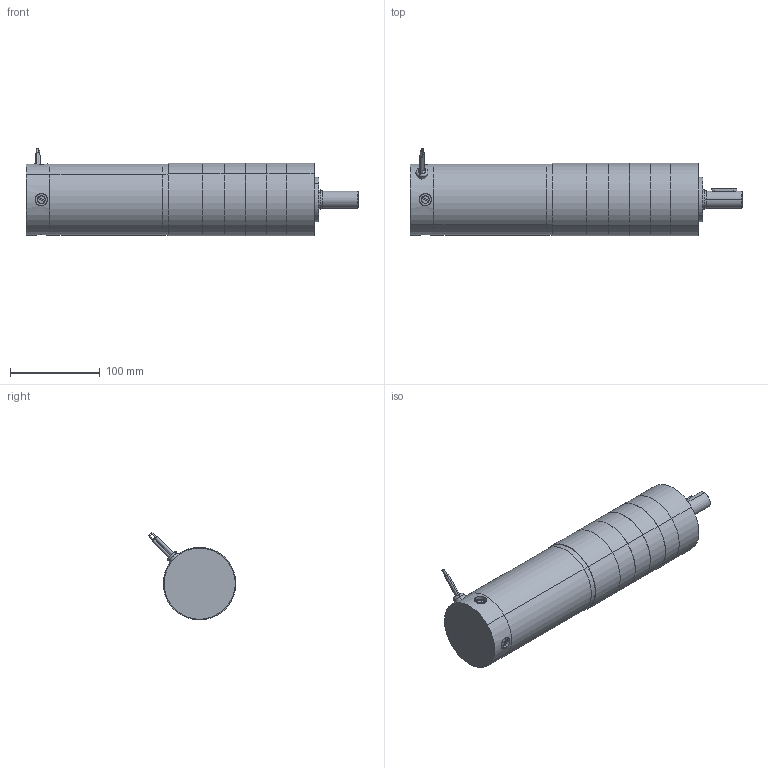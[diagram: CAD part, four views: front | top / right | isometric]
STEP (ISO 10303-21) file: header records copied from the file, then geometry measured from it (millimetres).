
FILE_DESCRIPTION (( 'STEP AP203' ), '1' );
FILE_NAME ('d33655bgp4.step', '2018-12-07T19:34:06', ( '' ), ( '' ), 'SwSTEP 2.0', 'SolidWorks 2017', '' );
FILE_SCHEMA (( 'CONFIG_CONTROL_DESIGN' ));
Length unit declared in the file: inch
Products named in the file (1): d33655bgp4
Bounding box: 370.2 x 97.55 x 97.55 mm (x, y, z)
Volume: 1654114.2 mm3; surface area: 182867.5 mm2
Topology: 19 solids, 19 shells, 374 faces, 788 edges, 488 vertices
Faces by surface type: cylinder 157, plane 150, cone 57, torus 6, sphere 4
Entity records: 10454 total; most frequent: CARTESIAN_POINT 2165, DIRECTION 1861, ORIENTED_EDGE 1544, EDGE_CURVE 772, AXIS2_PLACEMENT_3D 744, VERTEX_POINT 488, EDGE_LOOP 442, ADVANCED_FACE 374
